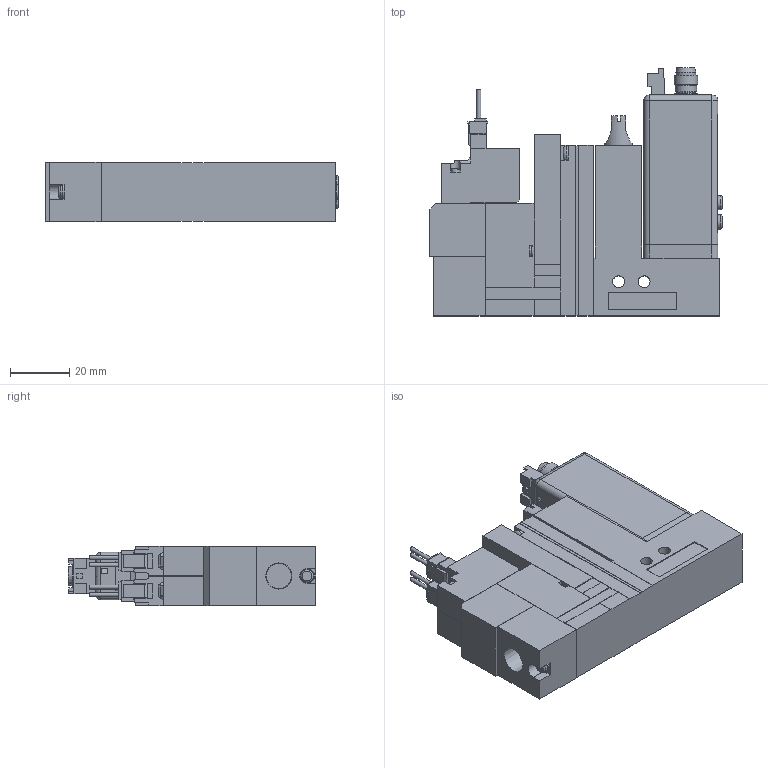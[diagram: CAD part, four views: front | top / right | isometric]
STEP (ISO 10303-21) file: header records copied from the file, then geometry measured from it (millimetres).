
FILE_DESCRIPTION(('STEP AP203'),'1');
FILE_NAME('22_22PLC5BLR.stp','2025-06-05T07:56:27',(' '),(' '),'Spatial InterOp 3D',' ',' ');
FILE_SCHEMA(('CONFIG_CONTROL_DESIGN'));
Length unit declared in the file: millimetre
Products named in the file (5): BMC22S※※※※22_22PLC5BLR; Solenoid valve B; Unit LC; Base SR10R; MVS-202
Assembly tree (4 placements, depth 2):
  BMC22S※※※※22_22PLC5BLR
    Solenoid valve B
    Unit LC
    Base SR10R
    MVS-202
Bounding box: 98.5 x 83.6 x 20 mm (x, y, z)
Volume: 108454 mm3; surface area: 30605.9 mm2
Topology: 4 solids, 8 shells, 783 faces, 2031 edges, 1325 vertices
Faces by surface type: plane 664, cylinder 92, cone 15, torus 8, sphere 4
Full cylindrical faces by diameter (mm): 1 x4, 1.4 x4, 1.5 x1, 2.5 x1, 3 x4, 3.5 x4, 3.6 x1, 4 x2, 4.134 x1, 4.5 x4, 4.8 x3, 5 x2, 5.8 x2, 6 x2, 6.5 x3, 7 x1, 7.2 x1, 7.9 x1, 8 x2
Entity records: 23540 total; most frequent: CARTESIAN_POINT 4260, ORIENTED_EDGE 3894, DIRECTION 3757, EDGE_CURVE 1947, LINE 1677, VECTOR 1677, VERTEX_POINT 1312, AXIS2_PLACEMENT_3D 1040
